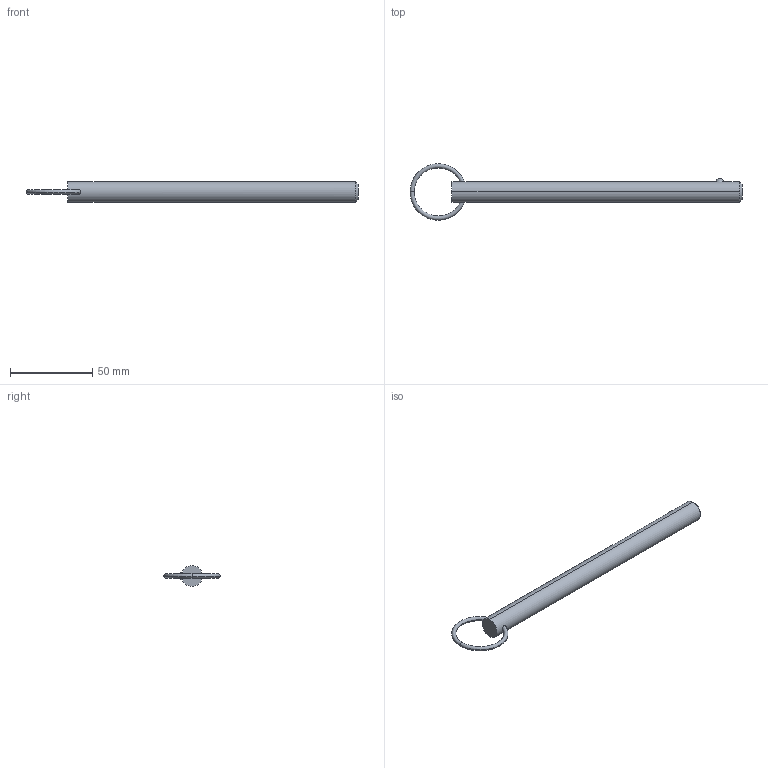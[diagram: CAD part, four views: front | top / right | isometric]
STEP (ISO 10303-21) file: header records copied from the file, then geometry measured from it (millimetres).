
FILE_DESCRIPTION (( 'STEP AP203' ), '1' );
FILE_NAME ('33012.W5060.step', '2024-11-01T14:14:04', ( '' ), ( '' ), 'SwSTEP 2.0', 'SolidWorks 2019', '' );
FILE_SCHEMA (( 'CONFIG_CONTROL_DESIGN' ));
Length unit declared in the file: millimetre
Products named in the file (3): 33012.W5060; Part2_33012.W5060; Part1_33012.W5060
Assembly tree (2 placements, depth 2):
  33012.W5060
    Part1_33012.W5060
    Part2_33012.W5060
Bounding box: 201.69 x 34.29 x 12.7 mm (x, y, z)
Volume: 22697.3 mm3; surface area: 8162.3 mm2
Topology: 2 solids, 2 shells, 16 faces, 31 edges, 18 vertices
Faces by surface type: torus 8, sphere 2, cone 2, cylinder 2, plane 2
Entity records: 885 total; most frequent: CARTESIAN_POINT 242, DIRECTION 88, ORIENTED_EDGE 62, AXIS2_PLACEMENT_3D 42, EDGE_CURVE 31, PERSON_AND_ORGANIZATION 26, CIRCLE 21, EDGE_LOOP 19
